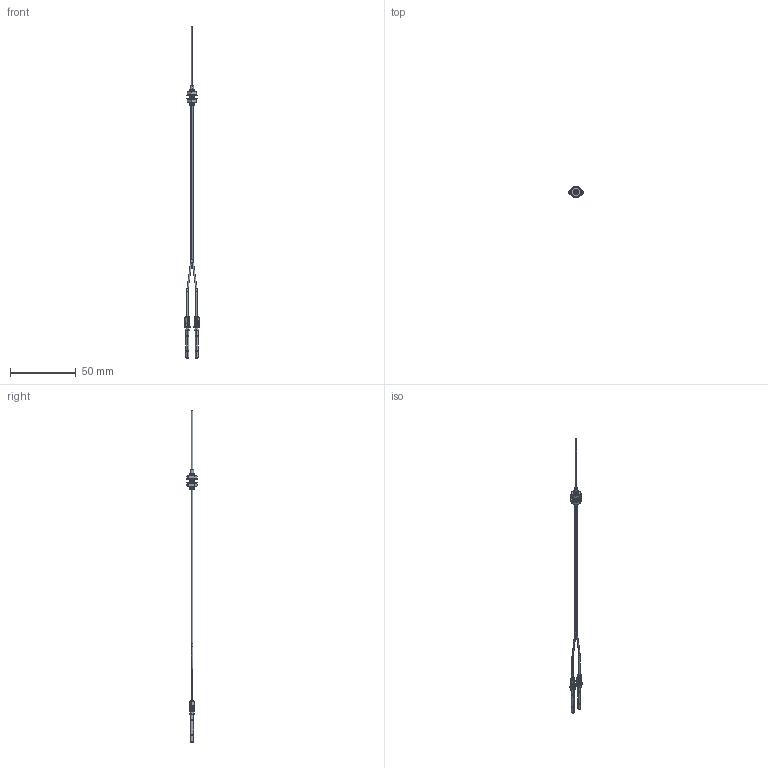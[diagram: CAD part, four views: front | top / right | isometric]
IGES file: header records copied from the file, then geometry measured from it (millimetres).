
Start section: SolidWorks IGES file using analytic representation for surfaces
Bounding box: 10.99 x 8.5 x 252.01 mm (x, y, z)
Surface area: 2990.7 mm2 (no closed solid volume)
Topology: 0 solids, 0 shells, 386 faces, 4436 edges, 4435 vertices
Faces by surface type: revolution 196, bspline 190
